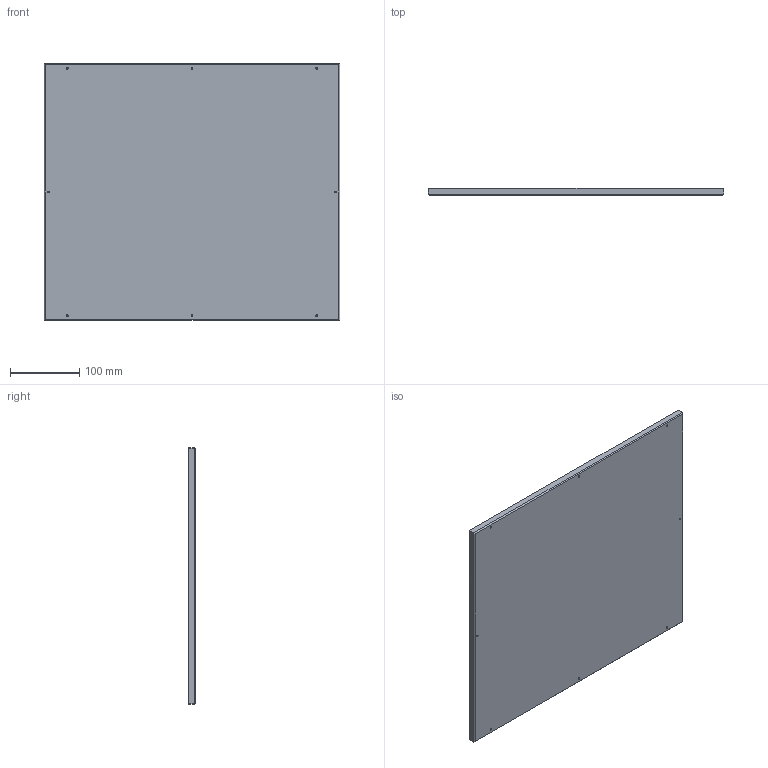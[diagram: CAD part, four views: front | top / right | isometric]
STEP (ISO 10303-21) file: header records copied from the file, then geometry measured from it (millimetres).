
FILE_DESCRIPTION (( 'STEP AP214' ), '1' );
FILE_NAME ('Asyril_FLAT VIBRATING PLATE (POM-C) - 530_000.101.995_(option).STEP', '2019-10-17T13:28:44', ( 'Standard' ), ( '' ), 'SwSTEP 2.0', 'SolidWorks 2017', '' );
FILE_SCHEMA (( 'AUTOMOTIVE_DESIGN' ));
Length unit declared in the file: millimetre
Products named in the file (1): Asyril_FLAT VIBRATING PLATE (POM-C) - 530_000.101.995_(option)
Bounding box: 426.8 x 10 x 369.8 mm (x, y, z)
Volume: 1576268.8 mm3; surface area: 330562.4 mm2
Topology: 1 solids, 1 shells, 46 faces, 116 edges, 64 vertices
Faces by surface type: cylinder 16, cone 16, plane 14
Entity records: 1374 total; most frequent: DIRECTION 226, CARTESIAN_POINT 211, ORIENTED_EDGE 200, EDGE_CURVE 100, AXIS2_PLACEMENT_3D 79, LINE 68, VECTOR 68, VERTEX_POINT 64
